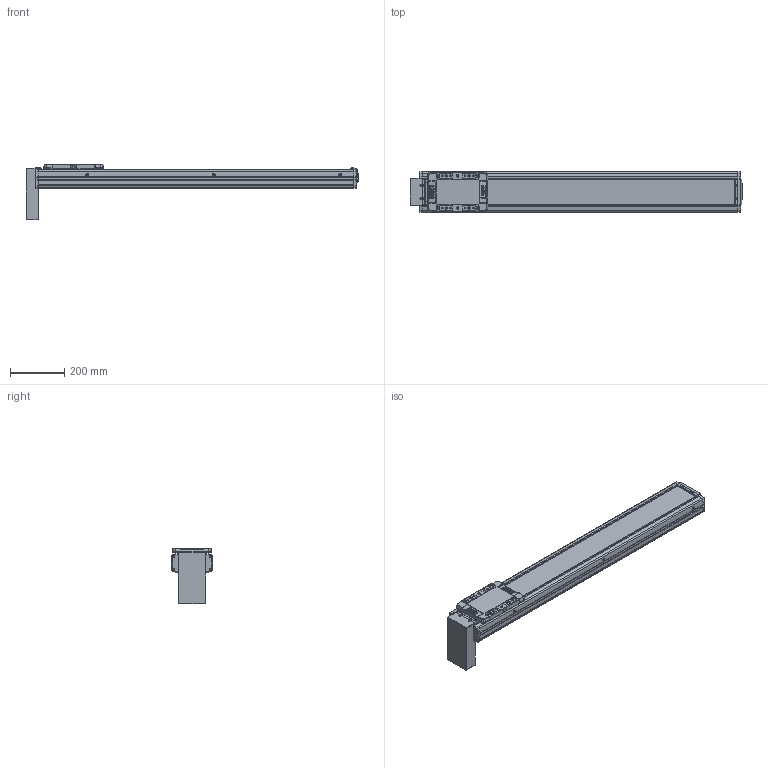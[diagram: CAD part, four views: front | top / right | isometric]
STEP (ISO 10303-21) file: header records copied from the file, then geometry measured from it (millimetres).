
FILE_DESCRIPTION(('STEP AP214'),'1');
FILE_NAME('Z:/Web/3D/SAN150/2013.04 (STP.)/SAN150ㅁㅁ-900PB.stp','2013-05-07T10:49:31',(' '),(' '),'Spatial InterOp 3D',' ',' ');
FILE_SCHEMA(('automotive_design'));
Length unit declared in the file: millimetre
Products named in the file (42): SLBL-SAN150; SLCV-SAN150; FHCS M4.0 x 8.0; BHCS M4.0 x 10.0; SFX-SAN150; RRCV-SAN150; FRBL-SAN150; Spacer; RN15; FRCV-SAN150; Screw 20; BASE-SAN150-000L ; SUS COVER; 스크루 : Round - M5.0 x 6.0; PB; 스크루 : Round - M3.0 x 6.0
Bounding box: 1220 x 150 x 205.4 mm (x, y, z)
Volume: 7184903.1 mm3; surface area: 1248978.9 mm2
Topology: 42 solids, 42 shells, 2247 faces, 5765 edges, 3670 vertices
Faces by surface type: plane 1063, cylinder 809, cone 278, sphere 64, bspline 21, torus 12
Entity records: 89294 total; most frequent: CARTESIAN_POINT 14786, DIRECTION 12268, ORIENTED_EDGE 11282, EDGE_CURVE 5641, AXIS2_PLACEMENT_3D 4459, VERTEX_POINT 3670, LINE 3350, VECTOR 3350
